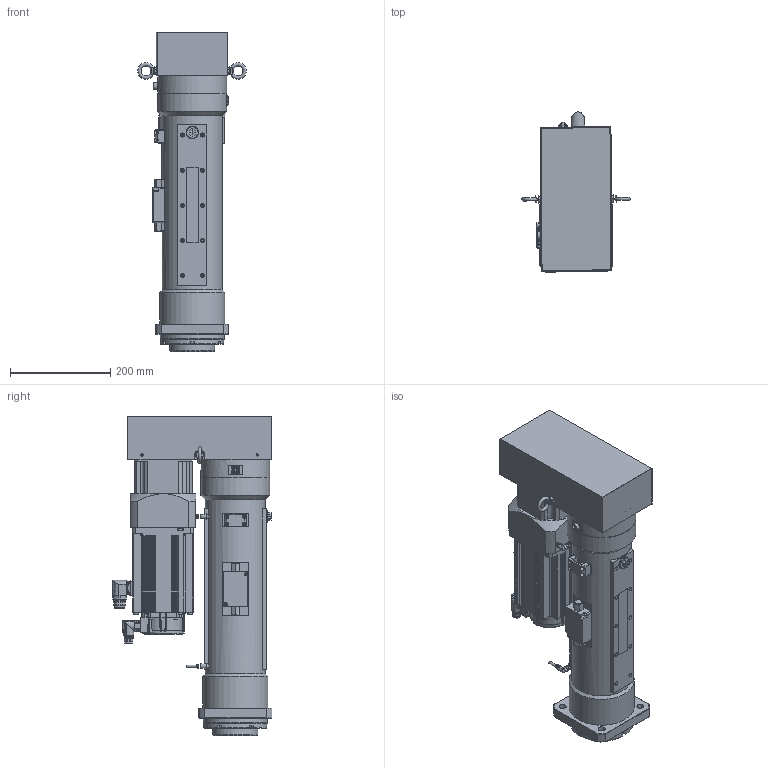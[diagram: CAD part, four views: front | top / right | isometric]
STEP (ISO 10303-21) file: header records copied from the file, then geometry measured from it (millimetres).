
FILE_DESCRIPTION(/* description */ (''),/* implementation_level */ '2;1');
FILE_NAME(/* name */ 'Z:\07.Product\01.Design\3D\1.P-All\OAICS-P\0000.Assembly\OACIS-P050,P060-250-150-A6V400.stp',/* time_stamp */ '2023-09-19T14:22:43+09:00',/* author */ ('magic'),/* organization */ (''),/* preprocessor_version */ 'ST-DEVELOPER v17',/* originating_system */ 'Autodesk Inventor 2019',/* authorisation */ '');
FILE_SCHEMA (('AUTOMOTIVE_DESIGN { 1 0 10303 214 3 1 1 }'));
Products named in the file (1): OACIS-P060-250-150-A6V400_v10.30
Bounding box: 215.9 x 318.4 x 636 mm (x, y, z)
Volume: 9977067.9 mm3; surface area: 1200973.1 mm2
Topology: 1 solids, 6 shells, 2780 faces, 7468 edges, 4935 vertices
Faces by surface type: plane 1276, cylinder 949, cone 251, bspline 169, torus 75, sphere 60
Full cylindrical faces by diameter (mm): 1 x6, 1.25 x12, 2.232 x6, 2.8 x1, 3.242 x38, 4.134 x4, 4.5 x35, 4.917 x13, 5 x2, 5.5 x5, 5.8 x2, 6 x4, 6.647 x20, 6.7 x2, 6.75 x4, 7 x4, 7.2 x2, 7.24 x2, 7.8 x2, 8 x35, 8.5 x8, 9 x24, 9.188 x1, 9.5 x4, 10 x10, 10.106 x8, 10.3 x1, 11 x1, 12 x1, 13 x1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
Entity records: 104712 total; most frequent: CARTESIAN_POINT 31387, DIRECTION 14828, ORIENTED_EDGE 14737, EDGE_CURVE 7376, AXIS2_PLACEMENT_3D 5574, VERTEX_POINT 4935, LINE 3680, VECTOR 3680
